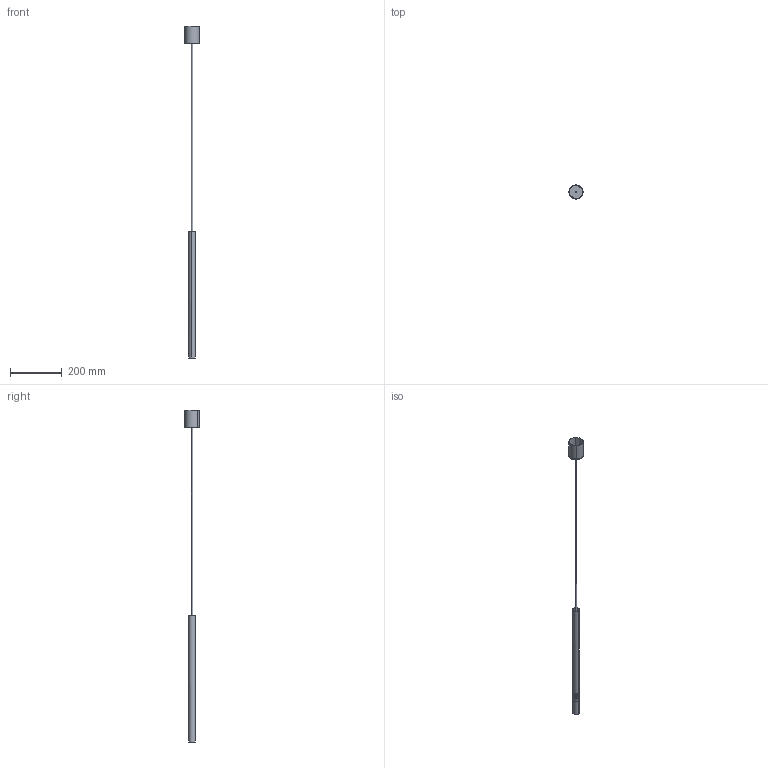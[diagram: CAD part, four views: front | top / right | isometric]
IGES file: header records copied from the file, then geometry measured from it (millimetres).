
Global section: file name: LASER_8798; native system: AutoCAD 2020 — polski (Polish),6; preprocessor: 2HAutodesk Translation Framework DWG producer (atf_dwg_producer); organization: unknown; date: 20190618.192435; units: millimetre
Bounding box: 54.98 x 54.98 x 1288.49 mm (x, y, z)
Surface area: 139790.6 mm2 (no closed solid volume)
Topology: 0 solids, 0 shells, 279 faces, 16004 edges, 15990 vertices
Faces by surface type: revolution 199, bspline 80
